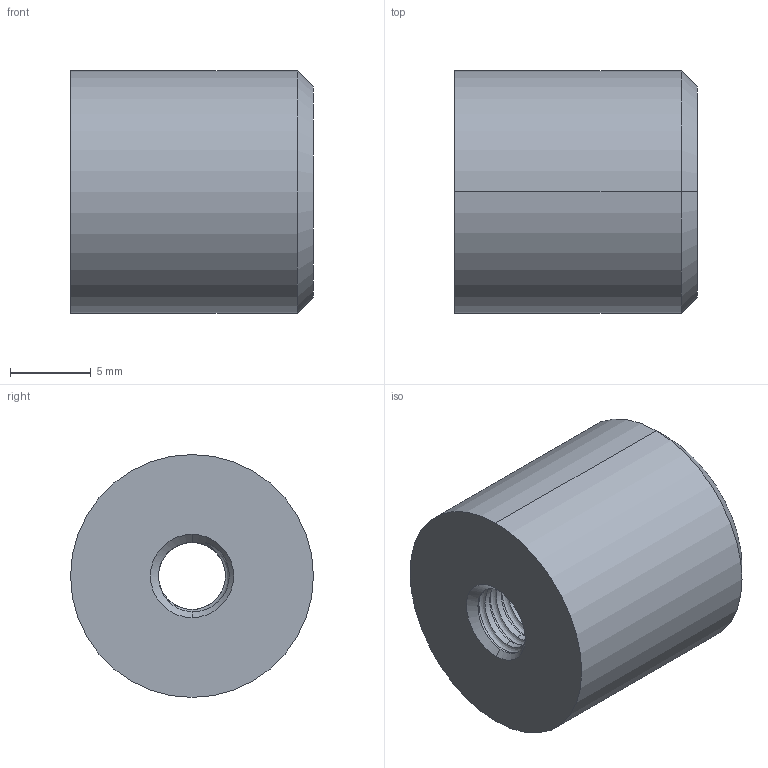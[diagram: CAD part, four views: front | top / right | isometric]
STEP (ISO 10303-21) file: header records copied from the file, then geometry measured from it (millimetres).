
FILE_DESCRIPTION (( 'STEP AP203' ), '1' );
FILE_NAME ('KD-208-3.STEP', '2009-08-13T08:50:09', ( 'kj06' ), ( 'kongjin' ), 'SwSTEP 2.0', 'SolidWorks 2007', '' );
FILE_SCHEMA (( 'CONFIG_CONTROL_DESIGN' ));
Length unit declared in the file: millimetre
Products named in the file (1): KD-208-3
Bounding box: 15 x 15 x 15 mm (x, y, z)
Volume: 2398.4 mm3; surface area: 1240 mm2
Topology: 1 solids, 1 shells, 41 faces, 113 edges, 74 vertices
Faces by surface type: cylinder 31, cone 6, bspline 2, plane 2
Entity records: 4597 total; most frequent: CARTESIAN_POINT 3647, ORIENTED_EDGE 226, DIRECTION 144, EDGE_CURVE 113, VERTEX_POINT 74, AXIS2_PLACEMENT_3D 54, EDGE_LOOP 43, ADVANCED_FACE 41
